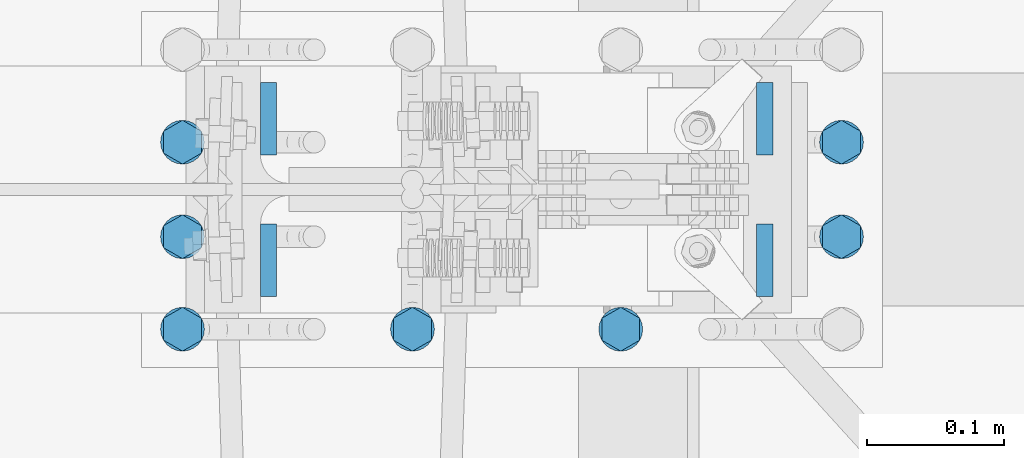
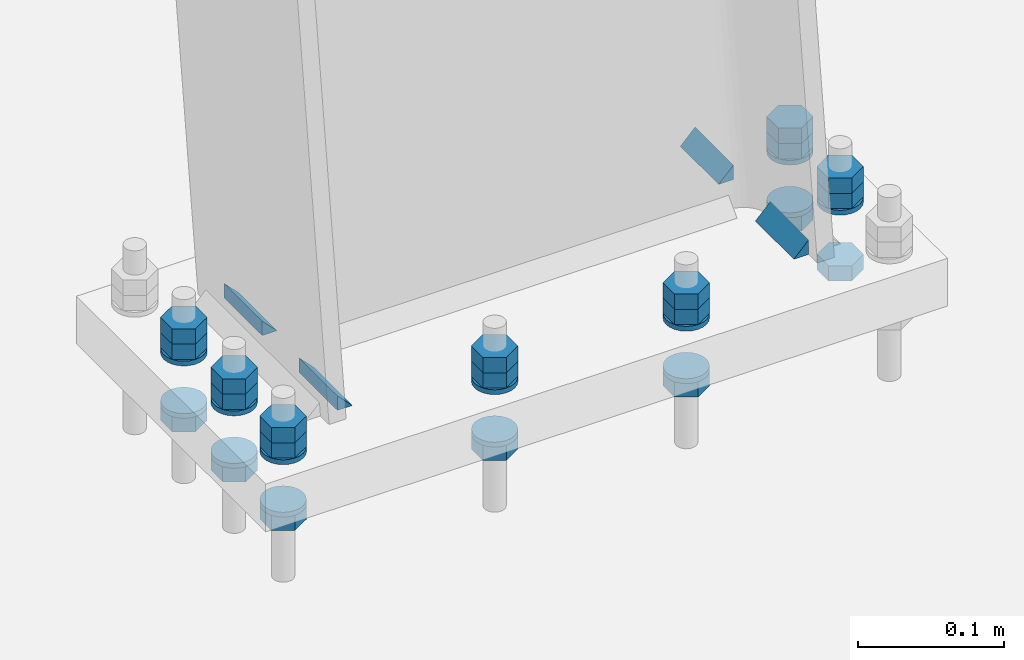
# One storey, part 54 of 72: 34 mechanical fasteners, 8 fasteners.
"""IFC4 building model written with IfcOpenShell, lengths in metres."""

from ifc_helpers import new_model, si_unit, frame, origin_with_axes, place, context, project, spatial, polyline, outline, extrude, type_object, element, save


model = new_model("IFC4")

# Units and contexts
model_context = context("Model", 3, precision=1e-05, world=origin_with_axes())
ifc_project = project(units=[si_unit("LENGTHUNIT", "METRE"), si_unit("AREAUNIT", "SQUARE_METRE"), si_unit("VOLUMEUNIT", "CUBIC_METRE"), si_unit("MASSUNIT", "GRAM", prefix="KILO"), si_unit("TIMEUNIT", "SECOND"), si_unit("PLANEANGLEUNIT", "RADIAN"), si_unit("SOLIDANGLEUNIT", "STERADIAN"), si_unit("THERMODYNAMICTEMPERATUREUNIT", "DEGREE_CELSIUS")], contexts=[model_context])

# Site, building, storey
placement_1 = place(None, origin_with_axes())
site = spatial("IfcSite", under=ifc_project, at=placement_1, Name="Italia", CompositionType="ELEMENT")
building = spatial("IfcBuilding", under=site, at=placement_1, Name="Pensilina", CompositionType="ELEMENT")
storey = spatial("IfcBuildingStorey", under=building, at=placement_1, Name="Storey 0", CompositionType="ELEMENT", Elevation=0.0)

# Fasteners
fastener_type_1 = type_object("IfcFastenerType", Name="Collegamento 0004_-199", PredefinedType="WELD")
placement_2 = place(placement_1, origin_with_axes())
fastener_1_placement = place(placement_2, origin_with_axes())
element("IfcFastener", 1, at=fastener_1_placement, inside=storey, type_object=fastener_type_1, Name="Collegamento 0004_-199", context=model_context, shape_type="SweptSolid", body=[
    extrude(outline(polyline([(0.0, 0.0, 0.0), (0.0118082, 0.0121734, 0.0), (0.0118082, 0.0, 0.0), (0.0, 0.0, 0.0)])), frame((1.10723, 15.8147, 0.103658), z_axis=(0.0, -1.0, 0.0), x_axis=(1.0, 0.0, 0.0)), (0.0, 0.0, 1.0), 0.0528002),
])
fastener_type_2 = type_object("IfcFastenerType", Name="Collegamento 0004_-199", PredefinedType="WELD")
fastener_2_placement = place(placement_2, origin_with_axes())
element("IfcFastener", 2, at=fastener_2_placement, inside=storey, type_object=fastener_type_2, Name="Collegamento 0004_-199", context=model_context, shape_type="SweptSolid", body=[
    extrude(outline(polyline([(0.0, 0.0, 0.0), (0.0118082, 0.0121734, 0.0), (0.0118082, 0.0, 0.0), (0.0, 0.0, 0.0)])), frame((0.756865, 15.7619, 0.103658), z_axis=(0.0, 1.0, 0.0), x_axis=(-1.0, 0.0, 0.0)), (0.0, 0.0, 1.0), 0.0528002),
])
fastener_type_3 = type_object("IfcFastenerType", Name="Collegamento 0004_-199", PredefinedType="WELD")
fastener_3_placement = place(placement_2, origin_with_axes())
element("IfcFastener", 3, at=fastener_3_placement, inside=storey, type_object=fastener_type_3, Name="Collegamento 0004_-199", context=model_context, shape_type="SweptSolid", body=[
    extrude(outline(polyline([(0.0, 0.0, 0.0), (0.0118082, 0.0121734, 0.0), (0.0118082, 0.0, 0.0), (0.0, 0.0, 0.0)])), frame((0.756865, 15.8653, 0.103658), z_axis=(0.0, 1.0, 0.0), x_axis=(-1.0, 0.0, 0.0)), (0.0, 0.0, 1.0), 0.0528002),
])
fastener_type_4 = type_object("IfcFastenerType", Name="Collegamento 0004_-199", PredefinedType="WELD")
fastener_4_placement = place(placement_2, origin_with_axes())
element("IfcFastener", 4, at=fastener_4_placement, inside=storey, type_object=fastener_type_4, Name="Collegamento 0004_-199", context=model_context, shape_type="SweptSolid", body=[
    extrude(outline(polyline([(0.0, 0.0, 0.0), (0.0118082, 0.0121734, 0.0), (0.0118082, 0.0, 0.0), (0.0, 0.0, 0.0)])), frame((1.10723, 15.9181, 0.103658), z_axis=(0.0, -1.0, 0.0), x_axis=(1.0, 0.0, 0.0)), (0.0, 0.0, 1.0), 0.0528002),
])
fastener_type_5 = type_object("IfcFastenerType", Name="Collegamento 0004_-199", PredefinedType="WELD")
fastener_5_placement = place(placement_2, origin_with_axes())
element("IfcFastener", 5, at=fastener_5_placement, inside=storey, type_object=fastener_type_5, Name="Collegamento 0004_-199", context=model_context, shape_type="SweptSolid", body=[
    extrude(outline(polyline([(0.0, 0.0, 0.0), (0.0118082, 0.0121734, 0.0), (0.0118082, 0.0, 0.0), (0.0, 0.0, 0.0)])), frame((1.10723, 15.8147, 0.103658), z_axis=(0.0, -1.0, 0.0), x_axis=(1.0, 0.0, 0.0)), (0.0, 0.0, 1.0), 0.0528002),
])
fastener_type_6 = type_object("IfcFastenerType", Name="Collegamento 0004_-199", PredefinedType="WELD")
fastener_6_placement = place(placement_2, origin_with_axes())
element("IfcFastener", 6, at=fastener_6_placement, inside=storey, type_object=fastener_type_6, Name="Collegamento 0004_-199", context=model_context, shape_type="SweptSolid", body=[
    extrude(outline(polyline([(0.0, 0.0, 0.0), (0.0118082, 0.0121734, 0.0), (0.0118082, 0.0, 0.0), (0.0, 0.0, 0.0)])), frame((0.756865, 15.7619, 0.103658), z_axis=(0.0, 1.0, 0.0), x_axis=(-1.0, 0.0, 0.0)), (0.0, 0.0, 1.0), 0.0528002),
])
fastener_type_7 = type_object("IfcFastenerType", Name="Collegamento 0004_-199", PredefinedType="WELD")
fastener_7_placement = place(placement_2, origin_with_axes())
element("IfcFastener", 7, at=fastener_7_placement, inside=storey, type_object=fastener_type_7, Name="Collegamento 0004_-199", context=model_context, shape_type="SweptSolid", body=[
    extrude(outline(polyline([(0.0, 0.0, 0.0), (0.0118082, 0.0121734, 0.0), (0.0118082, 0.0, 0.0), (0.0, 0.0, 0.0)])), frame((0.756865, 15.8653, 0.103658), z_axis=(0.0, 1.0, 0.0), x_axis=(-1.0, 0.0, 0.0)), (0.0, 0.0, 1.0), 0.0528002),
])
fastener_type_8 = type_object("IfcFastenerType", Name="Collegamento 0004_-199", PredefinedType="WELD")
fastener_8_placement = place(placement_2, origin_with_axes())
element("IfcFastener", 8, at=fastener_8_placement, inside=storey, type_object=fastener_type_8, Name="Collegamento 0004_-199", context=model_context, shape_type="SweptSolid", body=[
    extrude(outline(polyline([(0.0, 0.0, 0.0), (0.0118082, 0.0121734, 0.0), (0.0118082, 0.0, 0.0), (0.0, 0.0, 0.0)])), frame((1.10723, 15.9181, 0.103658), z_axis=(0.0, -1.0, 0.0), x_axis=(1.0, 0.0, 0.0)), (0.0, 0.0, 1.0), 0.0528002),
])

# Mechanical fasteners
mechanical_fastener_type_1 = type_object("IfcMechanicalFastenerType", Name="Collegamento 0004_-199", PredefinedType="BOLT")
mechanical_fastener_1_placement = place(placement_2, origin_with_axes())
element("IfcMechanicalFastener", 9, at=mechanical_fastener_1_placement, inside=storey, type_object=mechanical_fastener_type_1, Name="Collegamento 0004_-199", NominalDiameter=0.0159997, context=model_context, shape_type="SweptSolid", body=[
    extrude(outline(polyline([(0.0, 0.0, 0.0), (0.0159998, 0.0, 0.0), (0.0240002, -0.0138564, 0.0), (0.0159998, -0.0277128, 0.0), (0.0, -0.0277128, 0.0), (-0.00799942, -0.0138564, 0.0), (0.0, 0.0, 0.0)])), frame((0.674373, 15.8665, 0.107708), z_axis=(0.0, 0.0, 1.0), x_axis=(0.0, 1.0, 0.0)), (0.0, 0.0, 1.0), 0.0128),
])
mechanical_fastener_type_2 = type_object("IfcMechanicalFastenerType", Name="Collegamento 0004_-199", PredefinedType="BOLT")
mechanical_fastener_2_placement = place(placement_2, origin_with_axes())
element("IfcMechanicalFastener", 10, at=mechanical_fastener_2_placement, inside=storey, type_object=mechanical_fastener_type_2, Name="Collegamento 0004_-199", NominalDiameter=0.0159997, context=model_context, shape_type="SweptSolid", body=[
    extrude(outline(polyline([(0.0, 0.0, 0.0), (0.0159998, 0.0, 0.0), (0.0240002, -0.0138564, 0.0), (0.0159998, -0.0277128, 0.0), (0.0, -0.0277128, 0.0), (-0.00799942, -0.0138564, 0.0), (0.0, 0.0, 0.0)])), frame((0.674373, 15.8665, 0.120508), z_axis=(0.0, 0.0, 1.0), x_axis=(0.0, 1.0, 0.0)), (0.0, 0.0, 1.0), 0.0128),
])
mechanical_fastener_type_3 = type_object("IfcMechanicalFastenerType", Name="Collegamento 0004_-199", PredefinedType="BOLT")
mechanical_fastener_3_placement = place(placement_2, origin_with_axes())
element("IfcMechanicalFastener", 11, at=mechanical_fastener_3_placement, inside=storey, type_object=mechanical_fastener_type_3, Name="Collegamento 0004_-199", NominalDiameter=0.0159997, context=model_context, shape_type="SweptSolid", body=[
    extrude(outline(polyline([(0.0, 0.0, 0.0), (0.0159998, 0.0, 0.0), (0.0240002, -0.0138564, 0.0), (0.0159998, -0.0277128, 0.0), (0.0, -0.0277128, 0.0), (-0.00799942, -0.0138564, 0.0), (0.0, 0.0, 0.0)])), frame((0.674373, 15.8665, 0.0469081), z_axis=(0.0, 0.0, 1.0), x_axis=(0.0, 1.0, 0.0)), (0.0, 0.0, 1.0), 0.0128),
])
mechanical_fastener_type_4 = type_object("IfcMechanicalFastenerType", Name="Collegamento 0004_-199", PredefinedType="BOLT")
mechanical_fastener_4_placement = place(placement_2, origin_with_axes())
element("IfcMechanicalFastener", 12, at=mechanical_fastener_4_placement, inside=storey, type_object=mechanical_fastener_type_4, Name="Collegamento 0004_-199", NominalDiameter=0.032, context=model_context, shape_type="SweptSolid", body=[
    extrude(outline(polyline([(0.0, 0.0, 0.0), (-0.000544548, -0.00414109, 0.0), (-0.00214386, -0.00800002, 0.0), (-0.00468636, -0.0113137, 0.0), (-0.00799942, -0.0138564, 0.0), (-0.0118589, -0.0154548, 0.0), (-0.0159998, -0.016, 0.0), (-0.0201406, -0.0154548, 0.0), (-0.0240002, -0.0138564, 0.0), (-0.0273132, -0.0113137, 0.0), (-0.0298557, -0.00800002, 0.0), (-0.031455, -0.00414109, 0.0), (-0.0319996, 0.0, 0.0), (-0.031455, 0.00414109, 0.0), (-0.0298557, 0.00800002, 0.0), (-0.0273132, 0.0113137, 0.0), (-0.0240002, 0.0138564, 0.0), (-0.0201406, 0.0154548, 0.0), (-0.0159998, 0.016, 0.0), (-0.0118589, 0.0154548, 0.0), (-0.00799942, 0.0138564, 0.0), (-0.00468636, 0.0113137, 0.0), (-0.00214386, 0.00800002, 0.0), (-0.000544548, 0.00414109, 0.0), (0.0, 0.0, 0.0)])), frame((0.68823, 15.8905, 0.103708), z_axis=(0.0, 0.0, 1.0), x_axis=(0.0, 1.0, 0.0)), (0.0, 0.0, 1.0), 0.004),
])
mechanical_fastener_type_5 = type_object("IfcMechanicalFastenerType", Name="Collegamento 0004_-199", PredefinedType="BOLT")
mechanical_fastener_5_placement = place(placement_2, origin_with_axes())
element("IfcMechanicalFastener", 13, at=mechanical_fastener_5_placement, inside=storey, type_object=mechanical_fastener_type_5, Name="Collegamento 0004_-199", NominalDiameter=0.032, context=model_context, shape_type="SweptSolid", body=[
    extrude(outline(polyline([(0.0, 0.0, 0.0), (-0.000544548, -0.00414109, 0.0), (-0.00214386, -0.00800002, 0.0), (-0.00468636, -0.0113137, 0.0), (-0.00799942, -0.0138564, 0.0), (-0.0118589, -0.0154548, 0.0), (-0.0159998, -0.016, 0.0), (-0.0201406, -0.0154548, 0.0), (-0.0240002, -0.0138564, 0.0), (-0.0273132, -0.0113137, 0.0), (-0.0298557, -0.00800002, 0.0), (-0.031455, -0.00414109, 0.0), (-0.0319996, 0.0, 0.0), (-0.031455, 0.00414109, 0.0), (-0.0298557, 0.00800002, 0.0), (-0.0273132, 0.0113137, 0.0), (-0.0240002, 0.0138564, 0.0), (-0.0201406, 0.0154548, 0.0), (-0.0159998, 0.016, 0.0), (-0.0118589, 0.0154548, 0.0), (-0.00799942, 0.0138564, 0.0), (-0.00468636, 0.0113137, 0.0), (-0.00214386, 0.00800002, 0.0), (-0.000544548, 0.00414109, 0.0), (0.0, 0.0, 0.0)])), frame((0.68823, 15.8905, 0.0597081), z_axis=(0.0, 0.0, 1.0), x_axis=(0.0, 1.0, 0.0)), (0.0, 0.0, 1.0), 0.004),
])
mechanical_fastener_type_6 = type_object("IfcMechanicalFastenerType", Name="Collegamento 0004_-199", PredefinedType="BOLT")
mechanical_fastener_6_placement = place(placement_2, origin_with_axes())
element("IfcMechanicalFastener", 14, at=mechanical_fastener_6_placement, inside=storey, type_object=mechanical_fastener_type_6, Name="Collegamento 0004_-199", NominalDiameter=0.0159997, context=model_context, shape_type="SweptSolid", body=[
    extrude(outline(polyline([(0.0, 0.0, 0.0), (0.0159998, 0.0, 0.0), (0.0239992, -0.0138564, 0.0), (0.0159998, -0.0277128, 0.0), (0.0, -0.0277128, 0.0), (-0.00800037, -0.0138564, 0.0), (0.0, 0.0, 0.0)])), frame((0.674373, 15.7975, 0.107708), z_axis=(0.0, 0.0, 1.0), x_axis=(0.0, 1.0, 0.0)), (0.0, 0.0, 1.0), 0.0128),
])
mechanical_fastener_type_7 = type_object("IfcMechanicalFastenerType", Name="Collegamento 0004_-199", PredefinedType="BOLT")
mechanical_fastener_7_placement = place(placement_2, origin_with_axes())
element("IfcMechanicalFastener", 15, at=mechanical_fastener_7_placement, inside=storey, type_object=mechanical_fastener_type_7, Name="Collegamento 0004_-199", NominalDiameter=0.0159997, context=model_context, shape_type="SweptSolid", body=[
    extrude(outline(polyline([(0.0, 0.0, 0.0), (0.0159998, 0.0, 0.0), (0.0239992, -0.0138564, 0.0), (0.0159998, -0.0277128, 0.0), (0.0, -0.0277128, 0.0), (-0.00800037, -0.0138564, 0.0), (0.0, 0.0, 0.0)])), frame((0.674373, 15.7975, 0.120508), z_axis=(0.0, 0.0, 1.0), x_axis=(0.0, 1.0, 0.0)), (0.0, 0.0, 1.0), 0.0128),
])
mechanical_fastener_type_8 = type_object("IfcMechanicalFastenerType", Name="Collegamento 0004_-199", PredefinedType="BOLT")
mechanical_fastener_8_placement = place(placement_2, origin_with_axes())
element("IfcMechanicalFastener", 16, at=mechanical_fastener_8_placement, inside=storey, type_object=mechanical_fastener_type_8, Name="Collegamento 0004_-199", NominalDiameter=0.0159997, context=model_context, shape_type="SweptSolid", body=[
    extrude(outline(polyline([(0.0, 0.0, 0.0), (0.0159998, 0.0, 0.0), (0.0239992, -0.0138564, 0.0), (0.0159998, -0.0277128, 0.0), (0.0, -0.0277128, 0.0), (-0.00800037, -0.0138564, 0.0), (0.0, 0.0, 0.0)])), frame((0.674373, 15.7975, 0.0469081), z_axis=(0.0, 0.0, 1.0), x_axis=(0.0, 1.0, 0.0)), (0.0, 0.0, 1.0), 0.0128),
])
mechanical_fastener_type_9 = type_object("IfcMechanicalFastenerType", Name="Collegamento 0004_-199", PredefinedType="BOLT")
mechanical_fastener_9_placement = place(placement_2, origin_with_axes())
element("IfcMechanicalFastener", 17, at=mechanical_fastener_9_placement, inside=storey, type_object=mechanical_fastener_type_9, Name="Collegamento 0004_-199", NominalDiameter=0.032, context=model_context, shape_type="SweptSolid", body=[
    extrude(outline(polyline([(0.0, 0.0, 0.0), (-0.000544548, -0.00414109, 0.0), (-0.00214386, -0.00800002, 0.0), (-0.00468636, -0.0113137, 0.0), (-0.00799942, -0.0138564, 0.0), (-0.0118589, -0.0154548, 0.0), (-0.0159998, -0.016, 0.0), (-0.0201406, -0.0154548, 0.0), (-0.0240002, -0.0138564, 0.0), (-0.0273132, -0.0113137, 0.0), (-0.0298557, -0.00800002, 0.0), (-0.031455, -0.00414109, 0.0), (-0.0319996, 0.0, 0.0), (-0.031455, 0.00414109, 0.0), (-0.0298557, 0.00800002, 0.0), (-0.0273132, 0.0113137, 0.0), (-0.0240002, 0.0138564, 0.0), (-0.0201406, 0.0154548, 0.0), (-0.0159998, 0.016, 0.0), (-0.0118589, 0.0154548, 0.0), (-0.00799942, 0.0138564, 0.0), (-0.00468636, 0.0113137, 0.0), (-0.00214386, 0.00800002, 0.0), (-0.000544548, 0.00414109, 0.0), (0.0, 0.0, 0.0)])), frame((0.68823, 15.8215, 0.103708), z_axis=(0.0, 0.0, 1.0), x_axis=(0.0, 1.0, 0.0)), (0.0, 0.0, 1.0), 0.004),
])
mechanical_fastener_type_10 = type_object("IfcMechanicalFastenerType", Name="Collegamento 0004_-199", PredefinedType="BOLT")
mechanical_fastener_10_placement = place(placement_2, origin_with_axes())
element("IfcMechanicalFastener", 18, at=mechanical_fastener_10_placement, inside=storey, type_object=mechanical_fastener_type_10, Name="Collegamento 0004_-199", NominalDiameter=0.032, context=model_context, shape_type="SweptSolid", body=[
    extrude(outline(polyline([(0.0, 0.0, 0.0), (-0.000544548, -0.00414109, 0.0), (-0.00214386, -0.00800002, 0.0), (-0.00468636, -0.0113137, 0.0), (-0.00799942, -0.0138564, 0.0), (-0.0118589, -0.0154548, 0.0), (-0.0159998, -0.016, 0.0), (-0.0201406, -0.0154548, 0.0), (-0.0240002, -0.0138564, 0.0), (-0.0273132, -0.0113137, 0.0), (-0.0298557, -0.00800002, 0.0), (-0.031455, -0.00414109, 0.0), (-0.0319996, 0.0, 0.0), (-0.031455, 0.00414109, 0.0), (-0.0298557, 0.00800002, 0.0), (-0.0273132, 0.0113137, 0.0), (-0.0240002, 0.0138564, 0.0), (-0.0201406, 0.0154548, 0.0), (-0.0159998, 0.016, 0.0), (-0.0118589, 0.0154548, 0.0), (-0.00799942, 0.0138564, 0.0), (-0.00468636, 0.0113137, 0.0), (-0.00214386, 0.00800002, 0.0), (-0.000544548, 0.00414109, 0.0), (0.0, 0.0, 0.0)])), frame((0.68823, 15.8215, 0.0597081), z_axis=(0.0, 0.0, 1.0), x_axis=(0.0, 1.0, 0.0)), (0.0, 0.0, 1.0), 0.004),
])
mechanical_fastener_type_11 = type_object("IfcMechanicalFastenerType", Name="Collegamento 0004_-199", PredefinedType="BOLT")
mechanical_fastener_11_placement = place(placement_2, origin_with_axes())
element("IfcMechanicalFastener", 19, at=mechanical_fastener_11_placement, inside=storey, type_object=mechanical_fastener_type_11, Name="Collegamento 0004_-199", NominalDiameter=0.0159997, context=model_context, shape_type="SweptSolid", body=[
    extrude(outline(polyline([(0.0, 0.0, 0.0), (0.0159998, 0.0, 0.0), (0.0239992, -0.0138564, 0.0), (0.0159998, -0.0277128, 0.0), (0.0, -0.0277128, 0.0), (-0.00800037, -0.0138564, 0.0), (0.0, 0.0, 0.0)])), frame((0.674373, 15.73, 0.107708), z_axis=(0.0, 0.0, 1.0), x_axis=(0.0, 1.0, 0.0)), (0.0, 0.0, 1.0), 0.0128),
])
mechanical_fastener_type_12 = type_object("IfcMechanicalFastenerType", Name="Collegamento 0004_-199", PredefinedType="BOLT")
mechanical_fastener_12_placement = place(placement_2, origin_with_axes())
element("IfcMechanicalFastener", 20, at=mechanical_fastener_12_placement, inside=storey, type_object=mechanical_fastener_type_12, Name="Collegamento 0004_-199", NominalDiameter=0.0159997, context=model_context, shape_type="SweptSolid", body=[
    extrude(outline(polyline([(0.0, 0.0, 0.0), (0.0159998, 0.0, 0.0), (0.0239992, -0.0138564, 0.0), (0.0159998, -0.0277128, 0.0), (0.0, -0.0277128, 0.0), (-0.00800037, -0.0138564, 0.0), (0.0, 0.0, 0.0)])), frame((0.674373, 15.73, 0.120508), z_axis=(0.0, 0.0, 1.0), x_axis=(0.0, 1.0, 0.0)), (0.0, 0.0, 1.0), 0.0128),
])
mechanical_fastener_type_13 = type_object("IfcMechanicalFastenerType", Name="Collegamento 0004_-199", PredefinedType="BOLT")
mechanical_fastener_13_placement = place(placement_2, origin_with_axes())
element("IfcMechanicalFastener", 21, at=mechanical_fastener_13_placement, inside=storey, type_object=mechanical_fastener_type_13, Name="Collegamento 0004_-199", NominalDiameter=0.0159997, context=model_context, shape_type="SweptSolid", body=[
    extrude(outline(polyline([(0.0, 0.0, 0.0), (0.0159998, 0.0, 0.0), (0.0239992, -0.0138564, 0.0), (0.0159998, -0.0277128, 0.0), (0.0, -0.0277128, 0.0), (-0.00800037, -0.0138564, 0.0), (0.0, 0.0, 0.0)])), frame((0.674373, 15.73, 0.0469081), z_axis=(0.0, 0.0, 1.0), x_axis=(0.0, 1.0, 0.0)), (0.0, 0.0, 1.0), 0.0128),
])
mechanical_fastener_type_14 = type_object("IfcMechanicalFastenerType", Name="Collegamento 0004_-199", PredefinedType="BOLT")
mechanical_fastener_14_placement = place(placement_2, origin_with_axes())
element("IfcMechanicalFastener", 22, at=mechanical_fastener_14_placement, inside=storey, type_object=mechanical_fastener_type_14, Name="Collegamento 0004_-199", NominalDiameter=0.032, context=model_context, shape_type="SweptSolid", body=[
    extrude(outline(polyline([(0.0, 0.0, 0.0), (-0.000544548, -0.00414109, 0.0), (-0.00214386, -0.00800002, 0.0), (-0.00468636, -0.0113137, 0.0), (-0.00799942, -0.0138564, 0.0), (-0.0118589, -0.0154548, 0.0), (-0.0159998, -0.016, 0.0), (-0.0201406, -0.0154548, 0.0), (-0.0240002, -0.0138564, 0.0), (-0.0273132, -0.0113137, 0.0), (-0.0298557, -0.00800002, 0.0), (-0.031455, -0.00414109, 0.0), (-0.0319996, 0.0, 0.0), (-0.031455, 0.00414109, 0.0), (-0.0298557, 0.00800002, 0.0), (-0.0273132, 0.0113137, 0.0), (-0.0240002, 0.0138564, 0.0), (-0.0201406, 0.0154548, 0.0), (-0.0159998, 0.016, 0.0), (-0.0118589, 0.0154548, 0.0), (-0.00799942, 0.0138564, 0.0), (-0.00468636, 0.0113137, 0.0), (-0.00214386, 0.00800002, 0.0), (-0.000544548, 0.00414109, 0.0), (0.0, 0.0, 0.0)])), frame((0.68823, 15.754, 0.103708), z_axis=(0.0, 0.0, 1.0), x_axis=(0.0, 1.0, 0.0)), (0.0, 0.0, 1.0), 0.004),
])
mechanical_fastener_type_15 = type_object("IfcMechanicalFastenerType", Name="Collegamento 0004_-199", PredefinedType="BOLT")
mechanical_fastener_15_placement = place(placement_2, origin_with_axes())
element("IfcMechanicalFastener", 23, at=mechanical_fastener_15_placement, inside=storey, type_object=mechanical_fastener_type_15, Name="Collegamento 0004_-199", NominalDiameter=0.032, context=model_context, shape_type="SweptSolid", body=[
    extrude(outline(polyline([(0.0, 0.0, 0.0), (-0.000544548, -0.00414109, 0.0), (-0.00214386, -0.00800002, 0.0), (-0.00468636, -0.0113137, 0.0), (-0.00799942, -0.0138564, 0.0), (-0.0118589, -0.0154548, 0.0), (-0.0159998, -0.016, 0.0), (-0.0201406, -0.0154548, 0.0), (-0.0240002, -0.0138564, 0.0), (-0.0273132, -0.0113137, 0.0), (-0.0298557, -0.00800002, 0.0), (-0.031455, -0.00414109, 0.0), (-0.0319996, 0.0, 0.0), (-0.031455, 0.00414109, 0.0), (-0.0298557, 0.00800002, 0.0), (-0.0273132, 0.0113137, 0.0), (-0.0240002, 0.0138564, 0.0), (-0.0201406, 0.0154548, 0.0), (-0.0159998, 0.016, 0.0), (-0.0118589, 0.0154548, 0.0), (-0.00799942, 0.0138564, 0.0), (-0.00468636, 0.0113137, 0.0), (-0.00214386, 0.00800002, 0.0), (-0.000544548, 0.00414109, 0.0), (0.0, 0.0, 0.0)])), frame((0.68823, 15.754, 0.0597081), z_axis=(0.0, 0.0, 1.0), x_axis=(0.0, 1.0, 0.0)), (0.0, 0.0, 1.0), 0.004),
])
mechanical_fastener_type_16 = type_object("IfcMechanicalFastenerType", Name="Collegamento 0004_-199", PredefinedType="BOLT")
mechanical_fastener_16_placement = place(placement_2, origin_with_axes())
element("IfcMechanicalFastener", 24, at=mechanical_fastener_16_placement, inside=storey, type_object=mechanical_fastener_type_16, Name="Collegamento 0004_-199", NominalDiameter=0.0159997, context=model_context, shape_type="SweptSolid", body=[
    extrude(outline(polyline([(0.0, 0.0, 0.0), (0.0159998, 0.0, 0.0), (0.0239992, -0.0138564, 0.0), (0.0159998, -0.0277128, 0.0), (0.0, -0.0277128, 0.0), (-0.00800037, -0.0138564, 0.0), (0.0, 0.0, 0.0)])), frame((0.84219, 15.73, 0.107708), z_axis=(0.0, 0.0, 1.0), x_axis=(0.0, 1.0, 0.0)), (0.0, 0.0, 1.0), 0.0128),
])
mechanical_fastener_type_17 = type_object("IfcMechanicalFastenerType", Name="Collegamento 0004_-199", PredefinedType="BOLT")
mechanical_fastener_17_placement = place(placement_2, origin_with_axes())
element("IfcMechanicalFastener", 25, at=mechanical_fastener_17_placement, inside=storey, type_object=mechanical_fastener_type_17, Name="Collegamento 0004_-199", NominalDiameter=0.0159997, context=model_context, shape_type="SweptSolid", body=[
    extrude(outline(polyline([(0.0, 0.0, 0.0), (0.0159998, 0.0, 0.0), (0.0239992, -0.0138564, 0.0), (0.0159998, -0.0277128, 0.0), (0.0, -0.0277128, 0.0), (-0.00800037, -0.0138564, 0.0), (0.0, 0.0, 0.0)])), frame((0.84219, 15.73, 0.120508), z_axis=(0.0, 0.0, 1.0), x_axis=(0.0, 1.0, 0.0)), (0.0, 0.0, 1.0), 0.0128),
])
mechanical_fastener_type_18 = type_object("IfcMechanicalFastenerType", Name="Collegamento 0004_-199", PredefinedType="BOLT")
mechanical_fastener_18_placement = place(placement_2, origin_with_axes())
element("IfcMechanicalFastener", 26, at=mechanical_fastener_18_placement, inside=storey, type_object=mechanical_fastener_type_18, Name="Collegamento 0004_-199", NominalDiameter=0.0159997, context=model_context, shape_type="SweptSolid", body=[
    extrude(outline(polyline([(0.0, 0.0, 0.0), (0.0159998, 0.0, 0.0), (0.0239992, -0.0138564, 0.0), (0.0159998, -0.0277128, 0.0), (0.0, -0.0277128, 0.0), (-0.00800037, -0.0138564, 0.0), (0.0, 0.0, 0.0)])), frame((0.84219, 15.73, 0.0469081), z_axis=(0.0, 0.0, 1.0), x_axis=(0.0, 1.0, 0.0)), (0.0, 0.0, 1.0), 0.0128),
])
mechanical_fastener_type_19 = type_object("IfcMechanicalFastenerType", Name="Collegamento 0004_-199", PredefinedType="BOLT")
mechanical_fastener_19_placement = place(placement_2, origin_with_axes())
element("IfcMechanicalFastener", 27, at=mechanical_fastener_19_placement, inside=storey, type_object=mechanical_fastener_type_19, Name="Collegamento 0004_-199", NominalDiameter=0.032, context=model_context, shape_type="SweptSolid", body=[
    extrude(outline(polyline([(0.0, 0.0, 0.0), (-0.000544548, -0.00414109, 0.0), (-0.00214386, -0.00800002, 0.0), (-0.00468636, -0.0113137, 0.0), (-0.00799942, -0.0138564, 0.0), (-0.0118589, -0.0154548, 0.0), (-0.0159998, -0.016, 0.0), (-0.0201406, -0.0154548, 0.0), (-0.0240002, -0.0138564, 0.0), (-0.0273132, -0.0113137, 0.0), (-0.0298557, -0.00800002, 0.0), (-0.031455, -0.00414109, 0.0), (-0.0319996, 0.0, 0.0), (-0.031455, 0.00414109, 0.0), (-0.0298557, 0.00800002, 0.0), (-0.0273132, 0.0113137, 0.0), (-0.0240002, 0.0138564, 0.0), (-0.0201406, 0.0154548, 0.0), (-0.0159998, 0.016, 0.0), (-0.0118589, 0.0154548, 0.0), (-0.00799942, 0.0138564, 0.0), (-0.00468636, 0.0113137, 0.0), (-0.00214386, 0.00800002, 0.0), (-0.000544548, 0.00414109, 0.0), (0.0, 0.0, 0.0)])), frame((0.856047, 15.754, 0.103708), z_axis=(0.0, 0.0, 1.0), x_axis=(0.0, 1.0, 0.0)), (0.0, 0.0, 1.0), 0.004),
])
mechanical_fastener_type_20 = type_object("IfcMechanicalFastenerType", Name="Collegamento 0004_-199", PredefinedType="BOLT")
mechanical_fastener_20_placement = place(placement_2, origin_with_axes())
element("IfcMechanicalFastener", 28, at=mechanical_fastener_20_placement, inside=storey, type_object=mechanical_fastener_type_20, Name="Collegamento 0004_-199", NominalDiameter=0.032, context=model_context, shape_type="SweptSolid", body=[
    extrude(outline(polyline([(0.0, 0.0, 0.0), (-0.000544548, -0.00414109, 0.0), (-0.00214386, -0.00800002, 0.0), (-0.00468636, -0.0113137, 0.0), (-0.00799942, -0.0138564, 0.0), (-0.0118589, -0.0154548, 0.0), (-0.0159998, -0.016, 0.0), (-0.0201406, -0.0154548, 0.0), (-0.0240002, -0.0138564, 0.0), (-0.0273132, -0.0113137, 0.0), (-0.0298557, -0.00800002, 0.0), (-0.031455, -0.00414109, 0.0), (-0.0319996, 0.0, 0.0), (-0.031455, 0.00414109, 0.0), (-0.0298557, 0.00800002, 0.0), (-0.0273132, 0.0113137, 0.0), (-0.0240002, 0.0138564, 0.0), (-0.0201406, 0.0154548, 0.0), (-0.0159998, 0.016, 0.0), (-0.0118589, 0.0154548, 0.0), (-0.00799942, 0.0138564, 0.0), (-0.00468636, 0.0113137, 0.0), (-0.00214386, 0.00800002, 0.0), (-0.000544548, 0.00414109, 0.0), (0.0, 0.0, 0.0)])), frame((0.856047, 15.754, 0.0597081), z_axis=(0.0, 0.0, 1.0), x_axis=(0.0, 1.0, 0.0)), (0.0, 0.0, 1.0), 0.004),
])
mechanical_fastener_type_21 = type_object("IfcMechanicalFastenerType", Name="Collegamento 0004_-199", PredefinedType="BOLT")
mechanical_fastener_21_placement = place(placement_2, origin_with_axes())
element("IfcMechanicalFastener", 29, at=mechanical_fastener_21_placement, inside=storey, type_object=mechanical_fastener_type_21, Name="Collegamento 0004_-199", NominalDiameter=0.0159997, context=model_context, shape_type="SweptSolid", body=[
    extrude(outline(polyline([(0.0, 0.0, 0.0), (0.0159998, 0.0, 0.0), (0.0239992, -0.0138565, 0.0), (0.0159998, -0.0277129, 0.0), (0.0, -0.0277129, 0.0), (-0.00800037, -0.0138565, 0.0), (0.0, 0.0, 0.0)])), frame((0.99419, 15.73, 0.107708), z_axis=(0.0, 0.0, 1.0), x_axis=(0.0, 1.0, 0.0)), (0.0, 0.0, 1.0), 0.0128),
])
mechanical_fastener_type_22 = type_object("IfcMechanicalFastenerType", Name="Collegamento 0004_-199", PredefinedType="BOLT")
mechanical_fastener_22_placement = place(placement_2, origin_with_axes())
element("IfcMechanicalFastener", 30, at=mechanical_fastener_22_placement, inside=storey, type_object=mechanical_fastener_type_22, Name="Collegamento 0004_-199", NominalDiameter=0.0159997, context=model_context, shape_type="SweptSolid", body=[
    extrude(outline(polyline([(0.0, 0.0, 0.0), (0.0159998, 0.0, 0.0), (0.0239992, -0.0138565, 0.0), (0.0159998, -0.0277129, 0.0), (0.0, -0.0277129, 0.0), (-0.00800037, -0.0138565, 0.0), (0.0, 0.0, 0.0)])), frame((0.99419, 15.73, 0.120508), z_axis=(0.0, 0.0, 1.0), x_axis=(0.0, 1.0, 0.0)), (0.0, 0.0, 1.0), 0.0128),
])
mechanical_fastener_type_23 = type_object("IfcMechanicalFastenerType", Name="Collegamento 0004_-199", PredefinedType="BOLT")
mechanical_fastener_23_placement = place(placement_2, origin_with_axes())
element("IfcMechanicalFastener", 31, at=mechanical_fastener_23_placement, inside=storey, type_object=mechanical_fastener_type_23, Name="Collegamento 0004_-199", NominalDiameter=0.0159997, context=model_context, shape_type="SweptSolid", body=[
    extrude(outline(polyline([(0.0, 0.0, 0.0), (0.0159998, 0.0, 0.0), (0.0239992, -0.0138565, 0.0), (0.0159998, -0.0277129, 0.0), (0.0, -0.0277129, 0.0), (-0.00800037, -0.0138565, 0.0), (0.0, 0.0, 0.0)])), frame((0.99419, 15.73, 0.0469081), z_axis=(0.0, 0.0, 1.0), x_axis=(0.0, 1.0, 0.0)), (0.0, 0.0, 1.0), 0.0128),
])
mechanical_fastener_type_24 = type_object("IfcMechanicalFastenerType", Name="Collegamento 0004_-199", PredefinedType="BOLT")
mechanical_fastener_24_placement = place(placement_2, origin_with_axes())
element("IfcMechanicalFastener", 32, at=mechanical_fastener_24_placement, inside=storey, type_object=mechanical_fastener_type_24, Name="Collegamento 0004_-199", NominalDiameter=0.032, context=model_context, shape_type="SweptSolid", body=[
    extrude(outline(polyline([(0.0, 0.0, 0.0), (-0.000544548, -0.00414109, 0.0), (-0.00214386, -0.00800002, 0.0), (-0.00468636, -0.0113137, 0.0), (-0.00799942, -0.0138564, 0.0), (-0.0118589, -0.0154548, 0.0), (-0.0159998, -0.016, 0.0), (-0.0201406, -0.0154548, 0.0), (-0.0240002, -0.0138564, 0.0), (-0.0273132, -0.0113137, 0.0), (-0.0298557, -0.00800002, 0.0), (-0.031455, -0.00414109, 0.0), (-0.0319996, 0.0, 0.0), (-0.031455, 0.00414109, 0.0), (-0.0298557, 0.00800002, 0.0), (-0.0273132, 0.0113137, 0.0), (-0.0240002, 0.0138564, 0.0), (-0.0201406, 0.0154548, 0.0), (-0.0159998, 0.016, 0.0), (-0.0118589, 0.0154548, 0.0), (-0.00799942, 0.0138564, 0.0), (-0.00468636, 0.0113137, 0.0), (-0.00214386, 0.00800002, 0.0), (-0.000544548, 0.00414109, 0.0), (0.0, 0.0, 0.0)])), frame((1.00805, 15.754, 0.103708), z_axis=(0.0, 0.0, 1.0), x_axis=(0.0, 1.0, 0.0)), (0.0, 0.0, 1.0), 0.004),
])
mechanical_fastener_type_25 = type_object("IfcMechanicalFastenerType", Name="Collegamento 0004_-199", PredefinedType="BOLT")
mechanical_fastener_25_placement = place(placement_2, origin_with_axes())
element("IfcMechanicalFastener", 33, at=mechanical_fastener_25_placement, inside=storey, type_object=mechanical_fastener_type_25, Name="Collegamento 0004_-199", NominalDiameter=0.032, context=model_context, shape_type="SweptSolid", body=[
    extrude(outline(polyline([(0.0, 0.0, 0.0), (-0.000544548, -0.00414109, 0.0), (-0.00214386, -0.00800002, 0.0), (-0.00468636, -0.0113137, 0.0), (-0.00799942, -0.0138564, 0.0), (-0.0118589, -0.0154548, 0.0), (-0.0159998, -0.016, 0.0), (-0.0201406, -0.0154548, 0.0), (-0.0240002, -0.0138564, 0.0), (-0.0273132, -0.0113137, 0.0), (-0.0298557, -0.00800002, 0.0), (-0.031455, -0.00414109, 0.0), (-0.0319996, 0.0, 0.0), (-0.031455, 0.00414109, 0.0), (-0.0298557, 0.00800002, 0.0), (-0.0273132, 0.0113137, 0.0), (-0.0240002, 0.0138564, 0.0), (-0.0201406, 0.0154548, 0.0), (-0.0159998, 0.016, 0.0), (-0.0118589, 0.0154548, 0.0), (-0.00799942, 0.0138564, 0.0), (-0.00468636, 0.0113137, 0.0), (-0.00214386, 0.00800002, 0.0), (-0.000544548, 0.00414109, 0.0), (0.0, 0.0, 0.0)])), frame((1.00805, 15.754, 0.0597081), z_axis=(0.0, 0.0, 1.0), x_axis=(0.0, 1.0, 0.0)), (0.0, 0.0, 1.0), 0.004),
])
mechanical_fastener_type_26 = type_object("IfcMechanicalFastenerType", Name="Collegamento 0004_-199", PredefinedType="BOLT")
mechanical_fastener_26_placement = place(placement_2, origin_with_axes())
element("IfcMechanicalFastener", 34, at=mechanical_fastener_26_placement, inside=storey, type_object=mechanical_fastener_type_26, Name="Collegamento 0004_-199", NominalDiameter=0.0159997, context=model_context, shape_type="SweptSolid", body=[
    extrude(outline(polyline([(0.0, 0.0, 0.0), (0.0159998, 0.0, 0.0), (0.0240002, -0.0138564, 0.0), (0.0159998, -0.0277128, 0.0), (0.0, -0.0277128, 0.0), (-0.00799942, -0.0138564, 0.0), (0.0, 0.0, 0.0)])), frame((1.15527, 15.8665, 0.107708), z_axis=(0.0, 0.0, 1.0), x_axis=(0.0, 1.0, 0.0)), (0.0, 0.0, 1.0), 0.0128),
])
mechanical_fastener_type_27 = type_object("IfcMechanicalFastenerType", Name="Collegamento 0004_-199", PredefinedType="BOLT")
mechanical_fastener_27_placement = place(placement_2, origin_with_axes())
element("IfcMechanicalFastener", 35, at=mechanical_fastener_27_placement, inside=storey, type_object=mechanical_fastener_type_27, Name="Collegamento 0004_-199", NominalDiameter=0.0159997, context=model_context, shape_type="SweptSolid", body=[
    extrude(outline(polyline([(0.0, 0.0, 0.0), (0.0159998, 0.0, 0.0), (0.0240002, -0.0138564, 0.0), (0.0159998, -0.0277128, 0.0), (0.0, -0.0277128, 0.0), (-0.00799942, -0.0138564, 0.0), (0.0, 0.0, 0.0)])), frame((1.15527, 15.8665, 0.120508), z_axis=(0.0, 0.0, 1.0), x_axis=(0.0, 1.0, 0.0)), (0.0, 0.0, 1.0), 0.0128),
])
mechanical_fastener_type_28 = type_object("IfcMechanicalFastenerType", Name="Collegamento 0004_-199", PredefinedType="BOLT")
mechanical_fastener_28_placement = place(placement_2, origin_with_axes())
element("IfcMechanicalFastener", 36, at=mechanical_fastener_28_placement, inside=storey, type_object=mechanical_fastener_type_28, Name="Collegamento 0004_-199", NominalDiameter=0.0159997, context=model_context, shape_type="SweptSolid", body=[
    extrude(outline(polyline([(0.0, 0.0, 0.0), (0.0159998, 0.0, 0.0), (0.0240002, -0.0138564, 0.0), (0.0159998, -0.0277128, 0.0), (0.0, -0.0277128, 0.0), (-0.00799942, -0.0138564, 0.0), (0.0, 0.0, 0.0)])), frame((1.15527, 15.8665, 0.0469081), z_axis=(0.0, 0.0, 1.0), x_axis=(0.0, 1.0, 0.0)), (0.0, 0.0, 1.0), 0.0128),
])
mechanical_fastener_type_29 = type_object("IfcMechanicalFastenerType", Name="Collegamento 0004_-199", PredefinedType="BOLT")
mechanical_fastener_29_placement = place(placement_2, origin_with_axes())
element("IfcMechanicalFastener", 37, at=mechanical_fastener_29_placement, inside=storey, type_object=mechanical_fastener_type_29, Name="Collegamento 0004_-199", NominalDiameter=0.032, context=model_context, shape_type="SweptSolid", body=[
    extrude(outline(polyline([(0.0, 0.0, 0.0), (-0.000544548, -0.00414109, 0.0), (-0.00214386, -0.00800002, 0.0), (-0.00468636, -0.0113137, 0.0), (-0.00799942, -0.0138564, 0.0), (-0.0118589, -0.0154548, 0.0), (-0.0159998, -0.016, 0.0), (-0.0201406, -0.0154548, 0.0), (-0.0240002, -0.0138564, 0.0), (-0.0273132, -0.0113137, 0.0), (-0.0298557, -0.00800002, 0.0), (-0.031455, -0.00414109, 0.0), (-0.0319996, 0.0, 0.0), (-0.031455, 0.00414109, 0.0), (-0.0298557, 0.00800002, 0.0), (-0.0273132, 0.0113137, 0.0), (-0.0240002, 0.0138564, 0.0), (-0.0201406, 0.0154548, 0.0), (-0.0159998, 0.016, 0.0), (-0.0118589, 0.0154548, 0.0), (-0.00799942, 0.0138564, 0.0), (-0.00468636, 0.0113137, 0.0), (-0.00214386, 0.00800002, 0.0), (-0.000544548, 0.00414109, 0.0), (0.0, 0.0, 0.0)])), frame((1.16913, 15.8905, 0.103708), z_axis=(0.0, 0.0, 1.0), x_axis=(0.0, 1.0, 0.0)), (0.0, 0.0, 1.0), 0.004),
])
mechanical_fastener_type_30 = type_object("IfcMechanicalFastenerType", Name="Collegamento 0004_-199", PredefinedType="BOLT")
mechanical_fastener_30_placement = place(placement_2, origin_with_axes())
element("IfcMechanicalFastener", 38, at=mechanical_fastener_30_placement, inside=storey, type_object=mechanical_fastener_type_30, Name="Collegamento 0004_-199", NominalDiameter=0.032, context=model_context, shape_type="SweptSolid", body=[
    extrude(outline(polyline([(0.0, 0.0, 0.0), (-0.000544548, -0.00414109, 0.0), (-0.00214386, -0.00800002, 0.0), (-0.00468636, -0.0113137, 0.0), (-0.00799942, -0.0138564, 0.0), (-0.0118589, -0.0154548, 0.0), (-0.0159998, -0.016, 0.0), (-0.0201406, -0.0154548, 0.0), (-0.0240002, -0.0138564, 0.0), (-0.0273132, -0.0113137, 0.0), (-0.0298557, -0.00800002, 0.0), (-0.031455, -0.00414109, 0.0), (-0.0319996, 0.0, 0.0), (-0.031455, 0.00414109, 0.0), (-0.0298557, 0.00800002, 0.0), (-0.0273132, 0.0113137, 0.0), (-0.0240002, 0.0138564, 0.0), (-0.0201406, 0.0154548, 0.0), (-0.0159998, 0.016, 0.0), (-0.0118589, 0.0154548, 0.0), (-0.00799942, 0.0138564, 0.0), (-0.00468636, 0.0113137, 0.0), (-0.00214386, 0.00800002, 0.0), (-0.000544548, 0.00414109, 0.0), (0.0, 0.0, 0.0)])), frame((1.16913, 15.8905, 0.0597081), z_axis=(0.0, 0.0, 1.0), x_axis=(0.0, 1.0, 0.0)), (0.0, 0.0, 1.0), 0.004),
])
mechanical_fastener_type_31 = type_object("IfcMechanicalFastenerType", Name="Collegamento 0004_-199", PredefinedType="BOLT")
mechanical_fastener_31_placement = place(placement_2, origin_with_axes())
element("IfcMechanicalFastener", 39, at=mechanical_fastener_31_placement, inside=storey, type_object=mechanical_fastener_type_31, Name="Collegamento 0004_-199", NominalDiameter=0.0159997, context=model_context, shape_type="SweptSolid", body=[
    extrude(outline(polyline([(0.0, 0.0, 0.0), (0.0159998, 0.0, 0.0), (0.0239992, -0.0138564, 0.0), (0.0159998, -0.0277128, 0.0), (0.0, -0.0277128, 0.0), (-0.00800037, -0.0138564, 0.0), (0.0, 0.0, 0.0)])), frame((1.15527, 15.7975, 0.107708), z_axis=(0.0, 0.0, 1.0), x_axis=(0.0, 1.0, 0.0)), (0.0, 0.0, 1.0), 0.0128),
])
mechanical_fastener_type_32 = type_object("IfcMechanicalFastenerType", Name="Collegamento 0004_-199", PredefinedType="BOLT")
mechanical_fastener_32_placement = place(placement_2, origin_with_axes())
element("IfcMechanicalFastener", 40, at=mechanical_fastener_32_placement, inside=storey, type_object=mechanical_fastener_type_32, Name="Collegamento 0004_-199", NominalDiameter=0.0159997, context=model_context, shape_type="SweptSolid", body=[
    extrude(outline(polyline([(0.0, 0.0, 0.0), (0.0159998, 0.0, 0.0), (0.0239992, -0.0138564, 0.0), (0.0159998, -0.0277128, 0.0), (0.0, -0.0277128, 0.0), (-0.00800037, -0.0138564, 0.0), (0.0, 0.0, 0.0)])), frame((1.15527, 15.7975, 0.120508), z_axis=(0.0, 0.0, 1.0), x_axis=(0.0, 1.0, 0.0)), (0.0, 0.0, 1.0), 0.0128),
])
mechanical_fastener_type_33 = type_object("IfcMechanicalFastenerType", Name="Collegamento 0004_-199", PredefinedType="BOLT")
mechanical_fastener_33_placement = place(placement_2, origin_with_axes())
element("IfcMechanicalFastener", 41, at=mechanical_fastener_33_placement, inside=storey, type_object=mechanical_fastener_type_33, Name="Collegamento 0004_-199", NominalDiameter=0.0159997, context=model_context, shape_type="SweptSolid", body=[
    extrude(outline(polyline([(0.0, 0.0, 0.0), (0.0159998, 0.0, 0.0), (0.0239992, -0.0138564, 0.0), (0.0159998, -0.0277128, 0.0), (0.0, -0.0277128, 0.0), (-0.00800037, -0.0138564, 0.0), (0.0, 0.0, 0.0)])), frame((1.15527, 15.7975, 0.0469081), z_axis=(0.0, 0.0, 1.0), x_axis=(0.0, 1.0, 0.0)), (0.0, 0.0, 1.0), 0.0128),
])
mechanical_fastener_type_34 = type_object("IfcMechanicalFastenerType", Name="Collegamento 0004_-199", PredefinedType="BOLT")
mechanical_fastener_34_placement = place(placement_2, origin_with_axes())
element("IfcMechanicalFastener", 42, at=mechanical_fastener_34_placement, inside=storey, type_object=mechanical_fastener_type_34, Name="Collegamento 0004_-199", NominalDiameter=0.032, context=model_context, shape_type="SweptSolid", body=[
    extrude(outline(polyline([(0.0, 0.0, 0.0), (-0.000544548, -0.00414109, 0.0), (-0.00214386, -0.00800002, 0.0), (-0.00468636, -0.0113137, 0.0), (-0.00799942, -0.0138564, 0.0), (-0.0118589, -0.0154548, 0.0), (-0.0159998, -0.016, 0.0), (-0.0201406, -0.0154548, 0.0), (-0.0240002, -0.0138564, 0.0), (-0.0273132, -0.0113137, 0.0), (-0.0298557, -0.00800002, 0.0), (-0.031455, -0.00414109, 0.0), (-0.0319996, 0.0, 0.0), (-0.031455, 0.00414109, 0.0), (-0.0298557, 0.00800002, 0.0), (-0.0273132, 0.0113137, 0.0), (-0.0240002, 0.0138564, 0.0), (-0.0201406, 0.0154548, 0.0), (-0.0159998, 0.016, 0.0), (-0.0118589, 0.0154548, 0.0), (-0.00799942, 0.0138564, 0.0), (-0.00468636, 0.0113137, 0.0), (-0.00214386, 0.00800002, 0.0), (-0.000544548, 0.00414109, 0.0), (0.0, 0.0, 0.0)])), frame((1.16913, 15.8215, 0.103708), z_axis=(0.0, 0.0, 1.0), x_axis=(0.0, 1.0, 0.0)), (0.0, 0.0, 1.0), 0.004),
])

save(model, "model.ifc")
